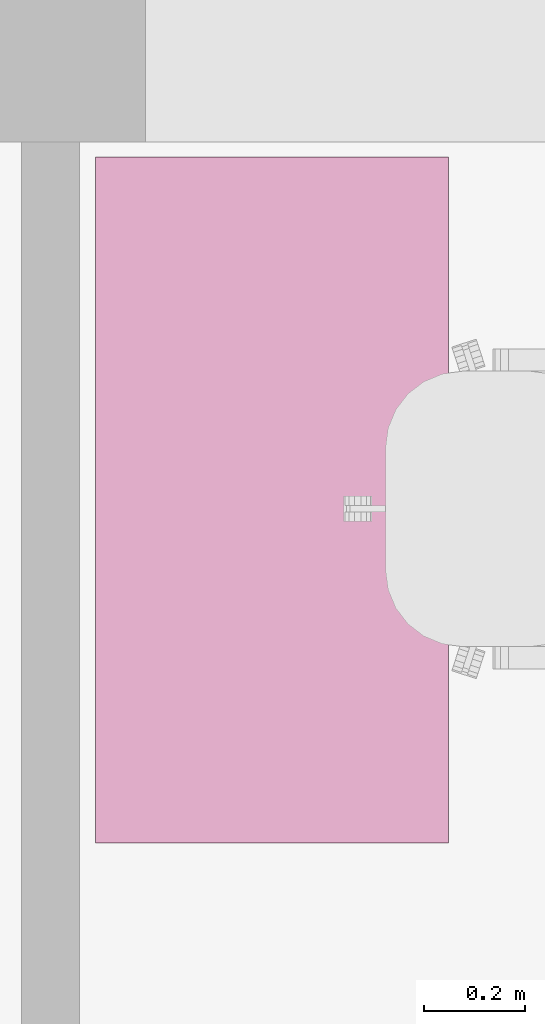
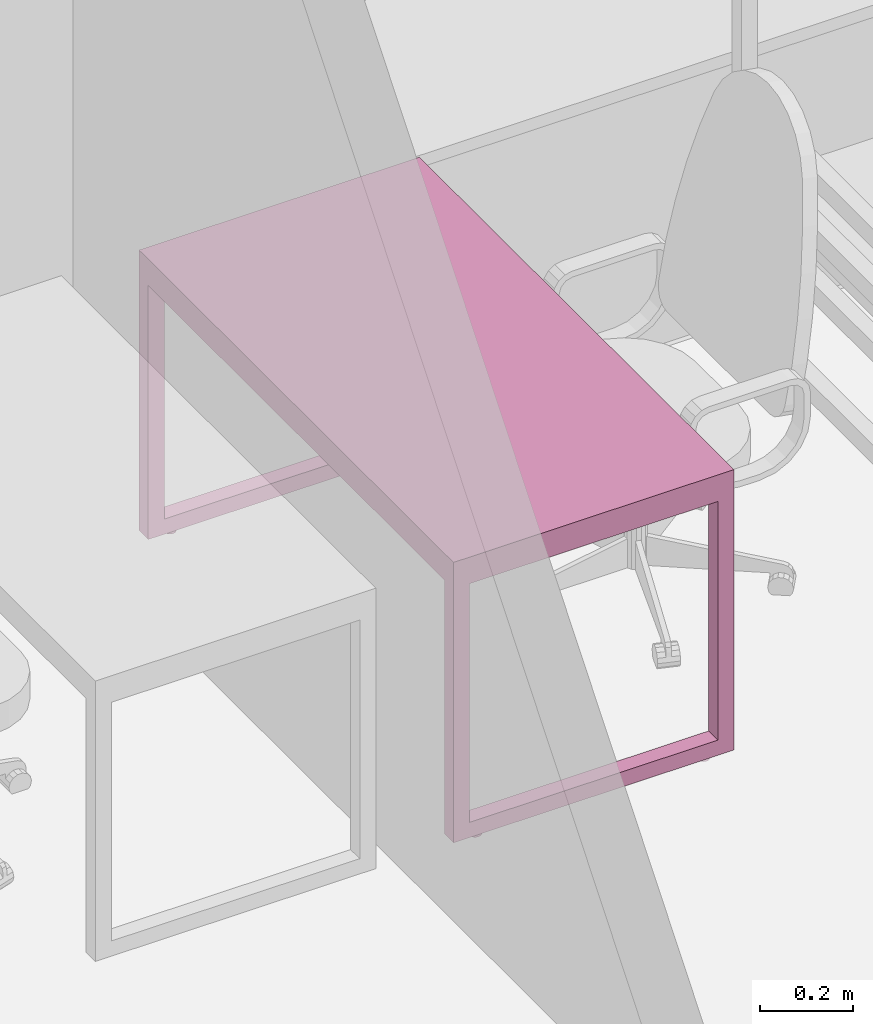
# One storey, part 39 of 46: 1 furnishing.
"""IFC2X3 building model written with IfcOpenShell, lengths in millimetres."""

import ifcopenshell
import ifcopenshell.guid

model = None  # the IFC model being written
_history = None  # IfcOwnerHistory: only IFC2X3 demands one
_inside = {}  # id of a spatial element -> (the spatial element, [elements in it])
_under = {}  # id of a project, library or spatial element -> (it, [spatial elements below it])
_declared = {}  # id of a project -> (the project, [libraries it declares])
_typed = {}  # id of a type object -> (the type object, [elements of that type])
_made_of = {}  # id of a material, layer set ... -> (it, [elements and type objects made of it])


def new_model(schema):
    """Start an empty IFC model of exactly this schema.

    Asked for "IFC4X3", IfcOpenShell would pick the latest addendum, in which some entities
    have other attributes; the version numbers below select the first issue.
    IFC2X3 requires an IfcOwnerHistory on every rooted entity: one is made here for all.
    """
    global model, _history
    if schema == "IFC4X3":
        model = ifcopenshell.file(schema_version=(4, 3, 0, 0))
    else:
        model = ifcopenshell.file(schema=schema)
    _inside.clear()
    _under.clear()
    _declared.clear()
    _typed.clear()
    _made_of.clear()
    _history = None
    if model.schema == "IFC2X3":
        org = make("IfcOrganization", Name="unknown")
        user = make(
            "IfcPersonAndOrganization",
            ThePerson=make("IfcPerson", FamilyName="unknown"),
            TheOrganization=org,
        )
        app = make(
            "IfcApplication",
            ApplicationDeveloper=org,
            Version="unknown",
            ApplicationFullName="unknown",
            ApplicationIdentifier="unknown",
        )
        _history = make(
            "IfcOwnerHistory",
            OwningUser=user,
            OwningApplication=app,
            ChangeAction="ADDED",
            CreationDate=0,
        )
    return model


def make(cls, **values):
    """One entity of the class cls with the attributes given. An attribute that is None is left unset."""
    return model.create_entity(
        cls, **{name: value for name, value in values.items() if value is not None}
    )


def entity(cls, *values):
    """Any entity or typed value of the class cls, its attributes in the order of the schema. None: left unset."""
    e = model.create_entity(cls)
    for i, value in enumerate(values):
        if value is not None:
            e[i] = value
    return e


def rooted(cls, **values):
    """An entity with a GlobalId (a new one), such as an element, a storey or a relation."""
    return make(cls, GlobalId=ifcopenshell.guid.new(), OwnerHistory=_history, **values)


def si_unit(unit_type, name, prefix=None):
    """IfcSIUnit, for example si_unit("LENGTHUNIT", "METRE", prefix="MILLI")."""
    return make("IfcSIUnit", UnitType=unit_type, Prefix=prefix, Name=name)


def converted_unit(unit_type, name, factor, base, dimensions=None, offset=None):
    """IfcConversionBasedUnit, such as the inch: factor (a typed value) times the base unit."""
    return make(
        "IfcConversionBasedUnit"
        if offset is None
        else "IfcConversionBasedUnitWithOffset",
        ConversionOffset=offset,
        Dimensions=None
        if dimensions is None
        else entity("IfcDimensionalExponents", *dimensions),
        UnitType=unit_type,
        Name=name,
        ConversionFactor=make(
            "IfcMeasureWithUnit", ValueComponent=factor, UnitComponent=base
        ),
    )


def derived_unit(unit_type, elements):
    """IfcDerivedUnit: a product of units, each with its exponent."""
    return make(
        "IfcDerivedUnit",
        Elements=[
            make("IfcDerivedUnitElement", Unit=unit, Exponent=power)
            for unit, power in elements
        ],
        UnitType=unit_type,
    )


def assignment(units):
    """IfcUnitAssignment: the units of a project."""
    return None if units is None else make("IfcUnitAssignment", Units=units)


def point(xyz):
    """IfcCartesianPoint."""
    return None if xyz is None else make("IfcCartesianPoint", Coordinates=xyz)


def direction(xyz):
    """IfcDirection."""
    return None if xyz is None else make("IfcDirection", DirectionRatios=xyz)


def frame(location, z_axis=None, x_axis=None):
    """IfcAxis2Placement3D, a coordinate frame: its origin and axes. An axis left out is left unset."""
    return make(
        "IfcAxis2Placement3D",
        Location=point(location),
        Axis=direction(z_axis),
        RefDirection=direction(x_axis),
    )


def origin():
    """The frame at (0, 0, 0) with its axes left unset."""
    return frame((0.0, 0.0, 0.0))


def place(relative_to, where):
    """IfcLocalPlacement: puts the frame where relative to a parent placement (None: the world)."""
    return make(
        "IfcLocalPlacement", PlacementRelTo=relative_to, RelativePlacement=where
    )


def context(
    kind, dimensions, precision=None, world=None, true_north=None, identifier=None
):
    """IfcGeometricRepresentationContext, for example the 3D "Model" context."""
    return make(
        "IfcGeometricRepresentationContext",
        ContextIdentifier=identifier,
        ContextType=kind,
        CoordinateSpaceDimension=dimensions,
        Precision=precision,
        WorldCoordinateSystem=world,
        TrueNorth=true_north,
    )


def subcontext(parent, identifier, kind, view, scale=None):
    """IfcGeometricRepresentationSubContext, for example "Body" below "Model"."""
    return make(
        "IfcGeometricRepresentationSubContext",
        ContextIdentifier=identifier,
        ContextType=kind,
        ParentContext=parent,
        TargetScale=scale,
        TargetView=view,
    )


def project(units=None, contexts=None):
    """IfcProject with its units and contexts."""
    return rooted(
        "IfcProject",
        Name="project",
        RepresentationContexts=contexts,
        UnitsInContext=assignment(units),
    )


def spatial(cls, under=None, at=None, **own):
    """A site, building, storey or space (cls), placed at a placement, below another one or the project."""
    s = rooted(cls, ObjectPlacement=at, **own)
    if under is not None:
        _under.setdefault(under.id(), (under, []))[1].append(s)
    return s


def faces_of(points, faces, orient=None, outer=None):
    """IfcFace entities. A face is a list of loops; a loop is a list of indices into points, from 0.

    orient and outer hold one flag for each loop. By default every Orientation is true, the
    first loop of a face is its IfcFaceOuterBound and the others are IfcFaceBound.
    """
    made = []
    for i, loops in enumerate(faces):
        bounds = []
        for j, loop in enumerate(loops):
            is_outer = j == 0 if outer is None else outer[i][j]
            bounds.append(
                make(
                    "IfcFaceOuterBound" if is_outer else "IfcFaceBound",
                    Bound=make("IfcPolyLoop", Polygon=[points[k] for k in loop]),
                    Orientation=True if orient is None else orient[i][j],
                )
            )
        made.append(make("IfcFace", Bounds=bounds))
    return made


def faceted_brep(points, faces, orient=None, outer=None, voids=None):
    """IfcFacetedBrep: a solid bounded by flat faces; with voids (closed shells), ...WithVoids."""
    shared = [point(p) for p in points]
    hull = make("IfcClosedShell", CfsFaces=faces_of(shared, faces, orient, outer))
    if voids is None:
        return make("IfcFacetedBrep", Outer=hull)
    return make(
        "IfcFacetedBrepWithVoids",
        Outer=hull,
        Voids=[
            make(cls, CfsFaces=faces_of(shared, fs, o, b)) for cls, fs, o, b in voids
        ],
    )


def shape(context_of_items, identifier, shape_type, items):
    """IfcShapeRepresentation: the items that make up one representation, for example the "Body"."""
    return make(
        "IfcShapeRepresentation",
        ContextOfItems=context_of_items,
        RepresentationIdentifier=identifier,
        RepresentationType=shape_type,
        Items=items,
    )


def source(mapping_origin, context_of_items, identifier, shape_type, items):
    """IfcRepresentationMap: a shape defined once, which mapped items show again and again."""
    return make(
        "IfcRepresentationMap",
        MappingOrigin=mapping_origin,
        MappedRepresentation=shape(context_of_items, identifier, shape_type, items),
    )


def transform(
    local_origin,
    x_axis=None,
    y_axis=None,
    z_axis=None,
    scale=None,
    scale2=None,
    scale3=None,
    uniform=True,
):
    """IfcCartesianTransformationOperator3D, or its non-uniform kind. x_axis, y_axis, z_axis: its Axis1, 2, 3."""
    if uniform:
        return make(
            "IfcCartesianTransformationOperator3D",
            Axis1=direction(x_axis),
            Axis2=direction(y_axis),
            LocalOrigin=point(local_origin),
            Scale=scale,
            Axis3=direction(z_axis),
        )
    return make(
        "IfcCartesianTransformationOperator3DnonUniform",
        Axis1=direction(x_axis),
        Axis2=direction(y_axis),
        LocalOrigin=point(local_origin),
        Scale=scale,
        Axis3=direction(z_axis),
        Scale2=scale2,
        Scale3=scale3,
    )


def mapped(mapping_source, mapping_target):
    """IfcMappedItem: shows the shape of a source again, moved by a transform."""
    return make(
        "IfcMappedItem", MappingSource=mapping_source, MappingTarget=mapping_target
    )


def material(Name=None, Category=None):
    """IfcMaterial."""
    return make("IfcMaterial", Name=Name, Category=Category)


def material_list(materials):
    """IfcMaterialList."""
    return make("IfcMaterialList", Materials=materials)


def made_of(thing, what):
    """Note that an element or type object is made of a material, layer set ...; save() writes the relation."""
    if what is not None:
        _made_of.setdefault(what.id(), (what, []))[1].append(thing)
    return thing


def type_object(cls, material=None, **own):
    """A type object (cls), such as IfcWallType, which elements share."""
    return made_of(rooted(cls, **own), material)


def type_shapes(of_type, sources):
    """Give a type object the sources (RepresentationMaps) that its elements show as mapped items."""
    of_type.RepresentationMaps = sources


def element(
    cls,
    number,
    at=None,
    inside=None,
    cuts=None,
    type_object=None,
    material=None,
    context=None,
    identifier="Body",
    shape_type=None,
    held_by="IfcProductDefinitionShape",
    body=None,
    shapes=None,
    **own,
):
    """One element of the class cls, such as IfcWall. Its Tag is "e" and its number.

    at: its placement. inside: the storey or other place that contains it. cuts: it is an
    opening in that element (IfcRelVoidsElement). A single representation is given by context,
    identifier, shape_type and body (its items); several are given by shapes. held_by: the class
    of the entity that holds the representations. save() writes the other relations.
    """
    e = rooted(cls, Tag="e%d" % number, ObjectPlacement=at, **own)
    if body is not None:
        shapes = [shape(context, identifier, shape_type, body)]
    if shapes is not None:
        e.Representation = make(held_by, Representations=shapes)
    if inside is not None:
        _inside.setdefault(inside.id(), (inside, []))[1].append(e)
    if cuts is not None:
        rooted(
            "IfcRelVoidsElement", RelatingBuildingElement=cuts, RelatedOpeningElement=e
        )
    if type_object is not None:
        _typed.setdefault(type_object.id(), (type_object, []))[1].append(e)
    return made_of(e, material)


def aggregate(whole, parts):
    """IfcRelAggregates: a whole, such as a stair, and the parts it consists of."""
    return rooted("IfcRelAggregates", RelatingObject=whole, RelatedObjects=parts)


def save(model, path):
    """Write the relations noted so far, then the file.

    IfcRelAggregates (storeys below a building ...), IfcRelContainedInSpatialStructure (elements
    in a storey), IfcRelDefinesByType, IfcRelAssociatesMaterial and IfcRelDeclares: one each for
    every whole, place, type object, material and project.
    """
    for whole, parts in _under.values():
        aggregate(whole, parts)
    for where, things in _inside.values():
        rooted(
            "IfcRelContainedInSpatialStructure",
            RelatedElements=things,
            RelatingStructure=where,
        )
    for kind, things in _typed.values():
        rooted("IfcRelDefinesByType", RelatedObjects=things, RelatingType=kind)
    for what, things in _made_of.values():
        rooted("IfcRelAssociatesMaterial", RelatedObjects=things, RelatingMaterial=what)
    for by, libraries in _declared.values():
        rooted("IfcRelDeclares", RelatingContext=by, RelatedDefinitions=libraries)
    model.write(path)


model = new_model("IFC2X3")

# Units and contexts
model_context = context("Model", 3, precision=0.01, world=origin(), true_north=direction((6.12303176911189e-17, 1.0)))
body_context = subcontext(model_context, "Body", "Model", "MODEL_VIEW")
ifc_project = project(units=[si_unit("LENGTHUNIT", "METRE", prefix="MILLI"), si_unit("AREAUNIT", "SQUARE_METRE"), si_unit("VOLUMEUNIT", "CUBIC_METRE"), converted_unit("PLANEANGLEUNIT", "DEGREE", entity("IfcRatioMeasure", 0.0174532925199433), si_unit("PLANEANGLEUNIT", "RADIAN"), dimensions=[0, 0, 0, 0, 0, 0, 0]), si_unit("MASSUNIT", "GRAM", prefix="KILO"), derived_unit("MASSDENSITYUNIT", [(si_unit("MASSUNIT", "GRAM", prefix="KILO"), 1), (si_unit("LENGTHUNIT", "METRE"), -3)]), si_unit("TIMEUNIT", "SECOND"), si_unit("FREQUENCYUNIT", "HERTZ"), si_unit("THERMODYNAMICTEMPERATUREUNIT", "DEGREE_CELSIUS"), derived_unit("THERMALTRANSMITTANCEUNIT", [(si_unit("MASSUNIT", "GRAM", prefix="KILO"), 1), (si_unit("THERMODYNAMICTEMPERATUREUNIT", "KELVIN"), -1), (si_unit("TIMEUNIT", "SECOND"), -3)]), derived_unit("VOLUMETRICFLOWRATEUNIT", [(si_unit("LENGTHUNIT", "METRE"), 3), (si_unit("TIMEUNIT", "SECOND"), -1)]), si_unit("ELECTRICCURRENTUNIT", "AMPERE"), si_unit("ELECTRICVOLTAGEUNIT", "VOLT"), si_unit("POWERUNIT", "WATT"), si_unit("FORCEUNIT", "NEWTON", prefix="KILO"), si_unit("ILLUMINANCEUNIT", "LUX"), si_unit("LUMINOUSFLUXUNIT", "LUMEN"), si_unit("LUMINOUSINTENSITYUNIT", "CANDELA"), derived_unit("USERDEFINED", [(si_unit("MASSUNIT", "GRAM", prefix="KILO"), -1), (si_unit("LENGTHUNIT", "METRE"), -2), (si_unit("TIMEUNIT", "SECOND"), 3), (si_unit("LUMINOUSFLUXUNIT", "LUMEN"), 1)]), derived_unit("LINEARVELOCITYUNIT", [(si_unit("LENGTHUNIT", "METRE"), 1), (si_unit("TIMEUNIT", "SECOND"), -1)]), si_unit("PRESSUREUNIT", "PASCAL"), derived_unit("USERDEFINED", [(si_unit("LENGTHUNIT", "METRE"), -2), (si_unit("MASSUNIT", "GRAM", prefix="KILO"), 1), (si_unit("TIMEUNIT", "SECOND"), -2)]), derived_unit("LINEARFORCEUNIT", [(si_unit("MASSUNIT", "GRAM", prefix="KILO"), 1), (si_unit("LENGTHUNIT", "METRE"), 1), (si_unit("TIMEUNIT", "SECOND"), -2), (si_unit("LENGTHUNIT", "METRE"), -1)]), derived_unit("PLANARFORCEUNIT", [(si_unit("MASSUNIT", "GRAM", prefix="KILO"), 1), (si_unit("LENGTHUNIT", "METRE"), 1), (si_unit("TIMEUNIT", "SECOND"), -2), (si_unit("LENGTHUNIT", "METRE"), -2)])], contexts=[model_context])

# Site, building, storey, space
site_placement = place(None, origin())
site = spatial("IfcSite", under=ifc_project, at=site_placement, Name="Default", CompositionType="ELEMENT")
building_placement = place(site_placement, origin())
building = spatial("IfcBuilding", under=site, at=building_placement, Name="SMA ARH", CompositionType="ELEMENT")
storey_placement = place(building_placement, frame((0.0, 0.0, 9910.0)))
storey = spatial("IfcBuildingStorey", under=building, at=storey_placement, Name="4 Korrus", CompositionType="ELEMENT", Elevation=9909.9999999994)
space_placement = place(storey_placement, origin())
space = spatial("IfcSpace", under=storey, at=space_placement, Name="4-30", CompositionType="ELEMENT", InteriorOrExteriorSpace="INTERNAL")

# Furnishing
ifc_material = material(Name="<Unnamed>")
ifc_material_list = material_list([ifc_material, ifc_material])
furniture_type = type_object("IfcFurnitureType", Name="kirjutuslaud 1360x700mm:kirjutuslaud 1360x700mm", material=ifc_material_list)
shared_shape = source(origin(), body_context, "Body", "Brep", [
    faceted_brep([(680.0, -350.0, 720.0), (680.0, 350.0, 720.0), (680.0, 350.0, 750.0), (680.0, -350.0, 750.0), (-680.0, -350.0, 720.0), (-680.0, -350.0, 750.0), (-680.0, 350.0, 750.0), (-680.0, 350.0, 720.0)], [[[0, 1, 2, 3]], [[4, 5, 6, 7]], [[1, 0, 4, 7]], [[2, 1, 7, 6]], [[3, 2, 6, 5]], [[0, 3, 5, 4]]]),
    faceted_brep([(-640.0, -310.0, 680.0), (-640.0, 310.0, 680.0), (-640.0, 310.0, 720.0), (-640.0, -310.0, 720.0), (-680.0, -350.0, 720.0), (-680.0, 350.0, 720.0), (-680.0, 350.0, 10.0), (-680.0, -350.0, 10.0), (-680.0, 310.0, 680.0), (-680.0, -310.0, 680.0), (-680.0, -310.0, 50.0), (-680.0, 310.0, 50.0), (-640.0, -350.0, 10.0), (-640.0, -350.0, 680.0), (640.0, -350.0, 680.0), (640.0, -350.0, 10.0), (680.0, -350.0, 10.0), (680.0, -350.0, 720.0), (-640.0, 350.0, 10.0), (680.0, 350.0, 720.0), (680.0, 350.0, 10.0), (640.0, 350.0, 10.0), (640.0, 350.0, 680.0), (-640.0, 350.0, 680.0), (640.0, 310.0, 720.0), (640.0, -310.0, 720.0), (-640.0, 310.0, 50.0), (-640.0, -310.0, 50.0), (640.0, -310.0, 680.0), (640.0, 310.0, 680.0), (680.0, 310.0, 680.0), (680.0, 310.0, 50.0), (680.0, -310.0, 50.0), (680.0, -310.0, 680.0), (640.0, -310.0, 50.0), (640.0, 310.0, 50.0)], [[[0, 1, 2, 3]], [[4, 5, 6, 7], [8, 9, 10, 11]], [[4, 7, 12, 13, 14, 15, 16, 17]], [[18, 12, 7, 6]], [[6, 5, 19, 20, 21, 22, 23, 18]], [[19, 5, 4, 17], [2, 24, 25, 3]], [[26, 1, 8, 11]], [[27, 26, 11, 10]], [[0, 27, 10, 9]], [[1, 0, 9, 8]], [[14, 13, 0, 28]], [[24, 2, 1, 29]], [[3, 25, 28, 0]], [[17, 16, 20, 19], [30, 31, 32, 33]], [[21, 15, 14, 28, 34, 35, 29, 22]], [[20, 16, 15, 21]], [[31, 30, 29, 35]], [[32, 31, 35, 34]], [[33, 32, 34, 28]], [[30, 33, 28, 29]], [[29, 28, 25, 24]], [[29, 1, 23, 22]], [[12, 18, 23, 1, 26, 27, 0, 13]]]),
    faceted_brep([(-663.729456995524, -270.466136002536, 0.0), (-659.847171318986, -269.955023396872, 0.0), (-655.964885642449, -270.466136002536, 0.0), (-652.347171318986, -271.964642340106, 0.0), (-649.240569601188, -274.348421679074, 0.0), (-646.85679026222, -277.455023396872, 0.0), (-645.35828392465, -281.072737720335, 0.0), (-644.847171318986, -284.955023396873, 0.0), (-645.35828392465, -288.83730907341, 0.0), (-646.85679026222, -292.455023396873, 0.0), (-649.240569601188, -295.561625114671, 0.0), (-652.347171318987, -297.945404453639, 0.0), (-655.964885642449, -299.443910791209, 0.0), (-659.847171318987, -299.955023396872, 0.0), (-663.729456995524, -299.443910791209, 0.0), (-667.347171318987, -297.945404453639, 0.0), (-670.453773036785, -295.561625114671, 0.0), (-672.837552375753, -292.455023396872, 0.0), (-674.336058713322, -288.83730907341, 0.0), (-674.847171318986, -284.955023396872, 0.0), (-674.336058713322, -281.072737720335, 0.0), (-672.837552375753, -277.455023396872, 0.0), (-670.453773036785, -274.348421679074, 0.0), (-667.347171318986, -271.964642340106, 0.0), (-655.964885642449, -299.443910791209, 10.0), (-652.347171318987, -297.945404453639, 10.0), (-649.240569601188, -295.561625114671, 10.0), (-646.85679026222, -292.455023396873, 10.0), (-645.35828392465, -288.83730907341, 10.0), (-644.847171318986, -284.955023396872, 10.0), (-645.35828392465, -281.072737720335, 10.0), (-646.85679026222, -277.455023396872, 10.0), (-649.240569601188, -274.348421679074, 10.0), (-652.347171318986, -271.964642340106, 10.0), (-655.964885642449, -270.466136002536, 10.0), (-659.847171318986, -269.955023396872, 10.0), (-663.729456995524, -270.466136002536, 10.0), (-667.347171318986, -271.964642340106, 10.0), (-670.453773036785, -274.348421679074, 10.0), (-672.837552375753, -277.455023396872, 10.0), (-674.336058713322, -281.072737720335, 10.0), (-674.847171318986, -284.955023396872, 10.0), (-674.336058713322, -288.83730907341, 10.0), (-672.837552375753, -292.455023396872, 10.0), (-670.453773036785, -295.561625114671, 10.0), (-667.347171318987, -297.945404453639, 10.0), (-663.729456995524, -299.443910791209, 10.0), (-659.847171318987, -299.955023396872, 10.0)], [[[0, 1, 2, 3, 4, 5, 6, 7, 8, 9, 10, 11, 12, 13, 14, 15, 16, 17, 18, 19, 20, 21, 22, 23]], [[24, 25, 26, 27, 28, 29, 30, 31, 32, 33, 34, 35, 36, 37, 38, 39, 40, 41, 42, 43, 44, 45, 46, 47]], [[18, 42, 41, 19]], [[17, 43, 42, 18]], [[45, 44, 16, 15]], [[17, 16, 44, 43]], [[46, 45, 15, 14]], [[47, 46, 14, 13]], [[12, 24, 47, 13]], [[11, 25, 24, 12]], [[27, 26, 10, 9]], [[11, 10, 26, 25]], [[28, 27, 9, 8]], [[29, 28, 8, 7]], [[6, 30, 29, 7]], [[5, 31, 30, 6]], [[33, 32, 4, 3]], [[5, 4, 32, 31]], [[34, 33, 3, 2]], [[35, 34, 2, 1]], [[0, 36, 35, 1]], [[23, 37, 36, 0]], [[39, 38, 22, 21]], [[23, 22, 38, 37]], [[40, 39, 21, 20]], [[41, 40, 20, 19]]]),
    faceted_brep([(-655.964885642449, 270.466136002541, 10.0), (-652.347171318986, 271.964642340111, 10.0), (-649.240569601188, 274.348421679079, 10.0), (-646.85679026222, 277.455023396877, 10.0), (-645.35828392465, 281.07273772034, 10.0), (-644.847171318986, 284.955023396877, 10.0), (-645.35828392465, 288.837309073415, 10.0), (-646.85679026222, 292.455023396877, 10.0), (-649.240569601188, 295.561625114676, 10.0), (-652.347171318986, 297.945404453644, 10.0), (-655.964885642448, 299.443910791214, 10.0), (-659.847171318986, 299.955023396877, 10.0), (-663.729456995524, 299.443910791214, 10.0), (-667.347171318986, 297.945404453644, 10.0), (-670.453773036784, 295.561625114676, 10.0), (-672.837552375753, 292.455023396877, 10.0), (-674.336058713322, 288.837309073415, 10.0), (-674.847171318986, 284.955023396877, 10.0), (-674.336058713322, 281.07273772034, 10.0), (-672.837552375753, 277.455023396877, 10.0), (-670.453773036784, 274.348421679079, 10.0), (-667.347171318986, 271.964642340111, 10.0), (-663.729456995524, 270.466136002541, 10.0), (-659.847171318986, 269.955023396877, 10.0), (-655.964885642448, 299.443910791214, 0.0), (-652.347171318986, 297.945404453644, 0.0), (-649.240569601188, 295.561625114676, 0.0), (-646.85679026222, 292.455023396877, 0.0), (-645.35828392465, 288.837309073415, 0.0), (-644.847171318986, 284.955023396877, 0.0), (-645.35828392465, 281.07273772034, 0.0), (-646.85679026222, 277.455023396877, 0.0), (-649.240569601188, 274.348421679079, 0.0), (-652.347171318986, 271.964642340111, 0.0), (-655.964885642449, 270.466136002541, 0.0), (-659.847171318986, 269.955023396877, 0.0), (-663.729456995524, 270.466136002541, 0.0), (-667.347171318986, 271.964642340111, 0.0), (-670.453773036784, 274.348421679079, 0.0), (-672.837552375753, 277.455023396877, 0.0), (-674.336058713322, 281.07273772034, 0.0), (-674.847171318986, 284.955023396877, 0.0), (-674.336058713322, 288.837309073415, 0.0), (-672.837552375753, 292.455023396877, 0.0), (-670.453773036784, 295.561625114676, 0.0), (-667.347171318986, 297.945404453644, 0.0), (-663.729456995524, 299.443910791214, 0.0), (-659.847171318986, 299.955023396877, 0.0)], [[[0, 1, 2, 3, 4, 5, 6, 7, 8, 9, 10, 11, 12, 13, 14, 15, 16, 17, 18, 19, 20, 21, 22, 23]], [[24, 25, 26, 27, 28, 29, 30, 31, 32, 33, 34, 35, 36, 37, 38, 39, 40, 41, 42, 43, 44, 45, 46, 47]], [[40, 18, 17, 41]], [[39, 19, 18, 40]], [[21, 20, 38, 37]], [[39, 38, 20, 19]], [[22, 21, 37, 36]], [[23, 22, 36, 35]], [[34, 0, 23, 35]], [[33, 1, 0, 34]], [[3, 2, 32, 31]], [[33, 32, 2, 1]], [[4, 3, 31, 30]], [[5, 4, 30, 29]], [[28, 6, 5, 29]], [[27, 7, 6, 28]], [[9, 8, 26, 25]], [[27, 26, 8, 7]], [[10, 9, 25, 24]], [[11, 10, 24, 47]], [[46, 12, 11, 47]], [[45, 13, 12, 46]], [[15, 14, 44, 43]], [[45, 44, 14, 13]], [[16, 15, 43, 42]], [[17, 16, 42, 41]]]),
    faceted_brep([(656.270543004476, -270.466136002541, 0.0), (660.152828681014, -269.955023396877, 0.0), (664.035114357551, -270.466136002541, 0.0), (667.652828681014, -271.96464234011, 0.0), (670.759430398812, -274.348421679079, 0.0), (673.14320973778, -277.455023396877, 0.0), (674.64171607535, -281.072737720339, 0.0), (675.152828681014, -284.955023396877, 0.0), (674.64171607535, -288.837309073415, 0.0), (673.14320973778, -292.455023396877, 0.0), (670.759430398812, -295.561625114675, 0.0), (667.652828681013, -297.945404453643, 0.0), (664.035114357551, -299.443910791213, 0.0), (660.152828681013, -299.955023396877, 0.0), (656.270543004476, -299.443910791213, 0.0), (652.652828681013, -297.945404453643, 0.0), (649.546226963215, -295.561625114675, 0.0), (647.162447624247, -292.455023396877, 0.0), (645.663941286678, -288.837309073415, 0.0), (645.152828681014, -284.955023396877, 0.0), (645.663941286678, -281.072737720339, 0.0), (647.162447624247, -277.455023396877, 0.0), (649.546226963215, -274.348421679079, 0.0), (652.652828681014, -271.96464234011, 0.0), (664.035114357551, -299.443910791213, 10.0), (667.652828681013, -297.945404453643, 10.0), (670.759430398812, -295.561625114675, 10.0), (673.14320973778, -292.455023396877, 10.0), (674.64171607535, -288.837309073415, 10.0), (675.152828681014, -284.955023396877, 10.0), (674.64171607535, -281.072737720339, 10.0), (673.14320973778, -277.455023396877, 10.0), (670.759430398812, -274.348421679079, 10.0), (667.652828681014, -271.96464234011, 10.0), (664.035114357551, -270.466136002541, 10.0), (660.152828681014, -269.955023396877, 10.0), (656.270543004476, -270.466136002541, 10.0), (652.652828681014, -271.96464234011, 10.0), (649.546226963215, -274.348421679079, 10.0), (647.162447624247, -277.455023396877, 10.0), (645.663941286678, -281.072737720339, 10.0), (645.152828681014, -284.955023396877, 10.0), (645.663941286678, -288.837309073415, 10.0), (647.162447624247, -292.455023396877, 10.0), (649.546226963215, -295.561625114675, 10.0), (652.652828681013, -297.945404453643, 10.0), (656.270543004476, -299.443910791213, 10.0), (660.152828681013, -299.955023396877, 10.0)], [[[0, 1, 2, 3, 4, 5, 6, 7, 8, 9, 10, 11, 12, 13, 14, 15, 16, 17, 18, 19, 20, 21, 22, 23]], [[24, 25, 26, 27, 28, 29, 30, 31, 32, 33, 34, 35, 36, 37, 38, 39, 40, 41, 42, 43, 44, 45, 46, 47]], [[18, 42, 41, 19]], [[17, 43, 42, 18]], [[45, 44, 16, 15]], [[17, 16, 44, 43]], [[46, 45, 15, 14]], [[47, 46, 14, 13]], [[12, 24, 47, 13]], [[11, 25, 24, 12]], [[27, 26, 10, 9]], [[11, 10, 26, 25]], [[28, 27, 9, 8]], [[29, 28, 8, 7]], [[6, 30, 29, 7]], [[5, 31, 30, 6]], [[33, 32, 4, 3]], [[5, 4, 32, 31]], [[34, 33, 3, 2]], [[35, 34, 2, 1]], [[0, 36, 35, 1]], [[23, 37, 36, 0]], [[39, 38, 22, 21]], [[23, 22, 38, 37]], [[40, 39, 21, 20]], [[41, 40, 20, 19]]]),
    faceted_brep([(664.035114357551, 270.466136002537, 10.0), (667.652828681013, 271.964642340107, 10.0), (670.759430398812, 274.348421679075, 10.0), (673.14320973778, 277.455023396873, 10.0), (674.64171607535, 281.072737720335, 10.0), (675.152828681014, 284.955023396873, 10.0), (674.64171607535, 288.837309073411, 10.0), (673.14320973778, 292.455023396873, 10.0), (670.759430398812, 295.561625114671, 10.0), (667.652828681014, 297.94540445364, 10.0), (664.035114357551, 299.443910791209, 10.0), (660.152828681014, 299.955023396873, 10.0), (656.270543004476, 299.443910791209, 10.0), (652.652828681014, 297.94540445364, 10.0), (649.546226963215, 295.561625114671, 10.0), (647.162447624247, 292.455023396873, 10.0), (645.663941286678, 288.837309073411, 10.0), (645.152828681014, 284.955023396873, 10.0), (645.663941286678, 281.072737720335, 10.0), (647.162447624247, 277.455023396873, 10.0), (649.546226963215, 274.348421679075, 10.0), (652.652828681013, 271.964642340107, 10.0), (656.270543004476, 270.466136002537, 10.0), (660.152828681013, 269.955023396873, 10.0), (664.035114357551, 299.443910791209, 0.0), (667.652828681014, 297.94540445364, 0.0), (670.759430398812, 295.561625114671, 0.0), (673.14320973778, 292.455023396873, 0.0), (674.64171607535, 288.837309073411, 0.0), (675.152828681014, 284.955023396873, 0.0), (674.64171607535, 281.072737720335, 0.0), (673.14320973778, 277.455023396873, 0.0), (670.759430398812, 274.348421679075, 0.0), (667.652828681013, 271.964642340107, 0.0), (664.035114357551, 270.466136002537, 0.0), (660.152828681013, 269.955023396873, 0.0), (656.270543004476, 270.466136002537, 0.0), (652.652828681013, 271.964642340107, 0.0), (649.546226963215, 274.348421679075, 0.0), (647.162447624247, 277.455023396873, 0.0), (645.663941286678, 281.072737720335, 0.0), (645.152828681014, 284.955023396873, 0.0), (645.663941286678, 288.837309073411, 0.0), (647.162447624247, 292.455023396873, 0.0), (649.546226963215, 295.561625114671, 0.0), (652.652828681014, 297.94540445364, 0.0), (656.270543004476, 299.443910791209, 0.0), (660.152828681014, 299.955023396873, 0.0)], [[[0, 1, 2, 3, 4, 5, 6, 7, 8, 9, 10, 11, 12, 13, 14, 15, 16, 17, 18, 19, 20, 21, 22, 23]], [[24, 25, 26, 27, 28, 29, 30, 31, 32, 33, 34, 35, 36, 37, 38, 39, 40, 41, 42, 43, 44, 45, 46, 47]], [[40, 18, 17, 41]], [[39, 19, 18, 40]], [[21, 20, 38, 37]], [[39, 38, 20, 19]], [[22, 21, 37, 36]], [[23, 22, 36, 35]], [[34, 0, 23, 35]], [[33, 1, 0, 34]], [[3, 2, 32, 31]], [[33, 32, 2, 1]], [[4, 3, 31, 30]], [[5, 4, 30, 29]], [[28, 6, 5, 29]], [[27, 7, 6, 28]], [[9, 8, 26, 25]], [[27, 26, 8, 7]], [[10, 9, 25, 24]], [[11, 10, 24, 47]], [[46, 12, 11, 47]], [[45, 13, 12, 46]], [[15, 14, 44, 43]], [[45, 44, 14, 13]], [[16, 15, 43, 42]], [[17, 16, 42, 41]]]),
])
type_shapes(furniture_type, [shared_shape])
furnishing_placement = place(space_placement, frame((28141.0, 11790.0, 0.0), z_axis=(0.0, 0.0, 1.0), x_axis=(0.0, 1.0, 0.0)))
element("IfcFurnishingElement", 1, at=furnishing_placement, inside=space, type_object=furniture_type, Name="kirjutuslaud 1360x700mm:kirjutuslaud 1360x700mm", ObjectType="kirjutuslaud 1360x700mm:kirjutuslaud 1360x700mm", context=body_context, shape_type="MappedRepresentation", body=[
    mapped(shared_shape, transform((0.0, 0.0, 0.0), scale=1.0)),
])

save(model, "model.ifc")
